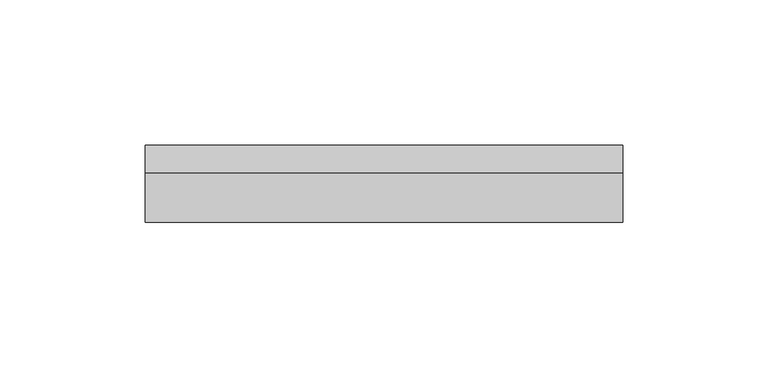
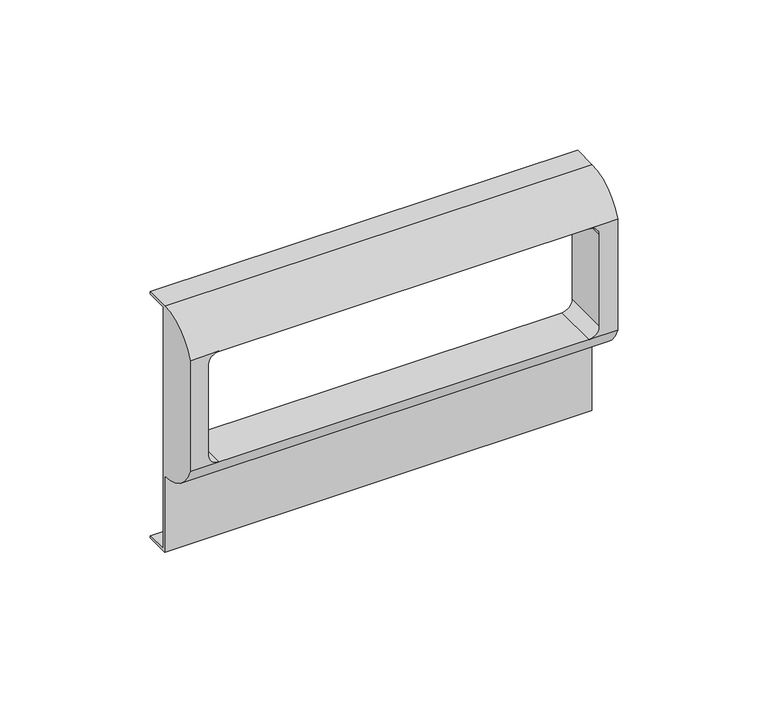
"""IFC4 building model written with IfcOpenShell, lengths in millimetres: proxy geometry, КНС_РамкаСуппорт_ILC_DKC : 45х45."""

from ifc_helpers import new_model, si_unit, frame, origin, place, context, project, spatial, polyline, circle_curve, source, transform, mapped, element, save
from ifc_brep_helpers import plane_surface, cylinder_surface, revolved_surface, advanced_brep


def electrical_fixtures_f8a1da3e(model_context):
    return source(origin(), model_context, "Body", "AdvancedBrep", [
        advanced_brep(
        [(82.0, 8.4, 49.0), (82.0, 8.4, 50.0), (82.0, -1.0, 50.0), (82.0, -18.0, 38.0), (82.0, -18.0, -7.0), (82.0, -1.0, -19.0), (82.0, -1.0, -50.0), (82.0, 8.4, -50.0), (82.0, 8.4, -49.0), (82.0, 0.0, -49.0), (82.0, 0.0, 49.0), (-82.0, 8.4, 49.0), (-82.0, 0.0, 49.0), (-82.0, 0.0, -49.0), (-82.0, 8.4, -49.0), (-82.0, 8.4, -50.0), (-82.0, -1.0, -50.0), (-82.0, -1.0, -19.0), (-82.0, -18.0, -7.0), (-82.0, -18.0, 38.0), (-82.0, -1.0, 50.0), (-82.0, 8.4, 50.0), (70.9686648, -18.0, 38.0), (75.0, -18.0, 33.9686648), (75.0, -18.0, -2.9686648), (70.9686648, -18.0, -7.0), (-70.9686648, -18.0, -7.0), (-75.0, -18.0, -2.9686648), (-75.0, -18.0, 33.9686648), (-70.9686648, -18.0, 38.0), (70.9686648, 0.0, 38.0), (-70.9686648, 0.0, 38.0), (-75.0, 0.0, 33.9686648), (-75.0, 0.0, -2.9686648), (-70.9686648, 0.0, -7.0), (70.9686648, 0.0, -7.0), (75.0, 0.0, -2.9686648), (75.0, 0.0, 33.9686648)],
        [
            (0, 1),
            (1, 2),
            (2, 3, circle_curve(frame((82.0, -1.0, 31.9583333), z_axis=(1.0, 0.0, 0.0), x_axis=(0.0, 1.0, 0.0)), 18.0416667)),
            (3, 4),
            (4, 5, circle_curve(frame((82.0, -1.0, -0.9583333), z_axis=(1.0, 0.0, 0.0), x_axis=(0.0, 1.0, 0.0)), 18.0416667)),
            (5, 6),
            (6, 7),
            (7, 8),
            (8, 9),
            (9, 10),
            (10, 0),
            (11, 12),
            (12, 13),
            (13, 14),
            (14, 15),
            (15, 16),
            (16, 17),
            (17, 18, circle_curve(frame((-82.0, -1.0, -0.9583333), z_axis=(-1.0, 0.0, 0.0), x_axis=(0.0, 1.0, 0.0)), 18.0416667)),
            (18, 19),
            (19, 20, circle_curve(frame((-82.0, -1.0, 31.9583333), z_axis=(-1.0, 0.0, 0.0), x_axis=(0.0, 1.0, 0.0)), 18.0416667)),
            (20, 21),
            (21, 11),
            (0, 11),
            (21, 1),
            (20, 2),
            (3, 22),
            (22, 23, circle_curve(frame((70.9686648, -18.0, 33.9686648), z_axis=(0.0, 1.0, 0.0), x_axis=(1.0, 0.0, 0.0)), 4.0313352)),
            (23, 24),
            (24, 25, circle_curve(frame((70.9686648, -18.0, -2.9686648), z_axis=(0.0, 1.0, 0.0), x_axis=(1.0, 0.0, 0.0)), 4.0313352)),
            (25, 4),
            (18, 26),
            (26, 27, circle_curve(frame((-70.9686648, -18.0, -2.9686648), z_axis=(0.0, 1.0, 0.0), x_axis=(1.0, 0.0, 0.0)), 4.0313352)),
            (27, 28),
            (28, 29, circle_curve(frame((-70.9686648, -18.0, 33.9686648), z_axis=(0.0, 1.0, 0.0), x_axis=(1.0, 0.0, 0.0)), 4.0313352)),
            (29, 19),
            (5, 17),
            (16, 6),
            (15, 7),
            (14, 8),
            (13, 9),
            (12, 10),
            (30, 31),
            (31, 32, circle_curve(frame((-70.9686648, 0.0, 33.9686648), z_axis=(0.0, -1.0, 0.0), x_axis=(1.0, 0.0, 0.0)), 4.0313352)),
            (32, 33),
            (33, 34, circle_curve(frame((-70.9686648, 0.0, -2.9686648), z_axis=(0.0, -1.0, 0.0), x_axis=(1.0, 0.0, 0.0)), 4.0313352)),
            (34, 35),
            (35, 36, circle_curve(frame((70.9686648, 0.0, -2.9686648), z_axis=(0.0, -1.0, 0.0), x_axis=(1.0, 0.0, 0.0)), 4.0313352)),
            (36, 37),
            (37, 30, circle_curve(frame((70.9686648, 0.0, 33.9686648), z_axis=(0.0, -1.0, 0.0), x_axis=(1.0, 0.0, 0.0)), 4.0313352)),
            (29, 22),
            (25, 26),
            (29, 31),
            (30, 22),
            (28, 32),
            (27, 33),
            (26, 34),
            (25, 35),
            (24, 36),
            (23, 37),
        ],
        [
            plane_surface(frame((82.0, 8.4, 50.0), z_axis=(1.0, 0.0, 0.0), x_axis=(0.0, 0.0, 1.0))),
            plane_surface(frame((-82.0, 8.4, 50.0), z_axis=(-1.0, 0.0, 0.0), x_axis=(0.0, 0.0, -1.0))),
            plane_surface(frame((82.0, 8.4, 49.0), z_axis=(0.0, 1.0, 0.0), x_axis=(-1.0, 0.0, 0.0))),
            plane_surface(frame((82.0, 8.4, 50.0), z_axis=(0.0, 0.0, 1.0), x_axis=(-1.0, 0.0, 0.0))),
            plane_surface(frame((82.0, -18.0, 38.0), z_axis=(0.0, -1.0, 0.0), x_axis=(-1.0, 0.0, 0.0))),
            plane_surface(frame((82.0, -1.0, -19.0), z_axis=(0.0, -1.0, 0.0), x_axis=(-1.0, 0.0, 0.0))),
            plane_surface(frame((82.0, -1.0, -50.0), z_axis=(0.0, 0.0, -1.0), x_axis=(-1.0, 0.0, 0.0))),
            plane_surface(frame((82.0, 8.4, -50.0), z_axis=(0.0, 1.0, 0.0), x_axis=(-1.0, 0.0, 0.0))),
            plane_surface(frame((82.0, 8.4, -49.0), z_axis=(0.0, 0.0, 1.0), x_axis=(-1.0, 0.0, 0.0))),
            plane_surface(frame((82.0, 0.0, -49.0), z_axis=(0.0, 1.0, 0.0), x_axis=(-1.0, 0.0, 0.0))),
            plane_surface(frame((82.0, 0.0, 49.0), z_axis=(0.0, 0.0, -1.0), x_axis=(-1.0, 0.0, 0.0))),
            cylinder_surface(frame((-82.0, -1.0, 31.9583333), z_axis=(1.0, 0.0, 0.0), x_axis=(0.0, 1.0, 0.0)), 18.0416667),
            cylinder_surface(frame((-82.0, -1.0, -0.9583333), z_axis=(1.0, 0.0, 0.0), x_axis=(0.0, 1.0, 0.0)), 18.0416667),
            plane_surface(frame((70.9686648, -18.0, 38.0), z_axis=(0.0, 0.0, -1.0), x_axis=(0.0, 1.0, 0.0))),
            revolved_surface(polyline([(-66.9373296, -18.0, 33.9686648), (-66.9373296, 0.0, 33.9686648)]), (-70.9686648, 0.0, 33.9686648), (0.0, -1.0, 0.0)),
            plane_surface(frame((-75.0, -18.0, 33.9686648), z_axis=(1.0, 0.0, 0.0), x_axis=(0.0, 1.0, 0.0))),
            revolved_surface(polyline([(-66.9373296, -18.0, -2.9686648), (-66.9373296, 0.0, -2.9686648)]), (-70.9686648, 0.0, -2.9686648), (0.0, -1.0, 0.0)),
            plane_surface(frame((-70.9686648, -18.0, -7.0), z_axis=(0.0, 0.0, 1.0), x_axis=(0.0, 1.0, 0.0))),
            revolved_surface(polyline([(75.0, -18.0, -2.9686648), (75.0, 0.0, -2.9686648)]), (70.9686648, 0.0, -2.9686648), (0.0, -1.0, 0.0)),
            plane_surface(frame((75.0, -18.0, -2.9686648), z_axis=(-1.0, 0.0, 0.0), x_axis=(0.0, 1.0, 0.0))),
            revolved_surface(polyline([(75.0, -18.0, 33.9686648), (75.0, 0.0, 33.9686648)]), (70.9686648, 0.0, 33.9686648), (0.0, -1.0, 0.0)),
        ],
        [
            (0, [[1, 2, 3, 4, 5, 6, 7, 8, 9, 10, 11]]),
            (1, [[12, 13, 14, 15, 16, 17, 18, 19, 20, 21, 22]]),
            (2, [[-1, 23, -22, 24]]),
            (3, [[-2, -24, -21, 25]]),
            (4, [[-4, 26, 27, 28, 29, 30]]),
            (4, [[-19, 31, 32, 33, 34, 35]]),
            (5, [[-6, 36, -17, 37]]),
            (6, [[-7, -37, -16, 38]]),
            (7, [[-8, -38, -15, 39]]),
            (8, [[-9, -39, -14, 40]]),
            (9, [[-10, -40, -13, 41], [42, 43, 44, 45, 46, 47, 48, 49]]),
            (10, [[-11, -41, -12, -23]]),
            (11, [[-3, -25, -20, -35, 50, -26]]),
            (12, [[-5, -30, 51, -31, -18, -36]]),
            (13, [[52, -42, 53, -50]]),
            (14, [[-52, -34, 54, -43]]),
            (15, [[-54, -33, 55, -44]]),
            (16, [[-55, -32, 56, -45]]),
            (17, [[-56, -51, 57, -46]]),
            (18, [[-57, -29, 58, -47]]),
            (19, [[-58, -28, 59, -48]]),
            (20, [[-53, -49, -59, -27]]),
        ],
    ),
    ])


if __name__ == "__main__":
    model = new_model("IFC4")
    model_context = context("Model", 3, world=origin())
    ifc_project = project(units=[si_unit("LENGTHUNIT", "METRE", prefix="MILLI")], contexts=[model_context])
    site = spatial("IfcSite", under=ifc_project)
    building = spatial("IfcBuilding", under=site)
    placement = place(None, origin())
    electrical_fixtures_shape = electrical_fixtures_f8a1da3e(model_context)
    element("IfcBuildingElementProxy", 1, Name="КНС_РамкаСуппорт_ILC_DKC : 45х45", ObjectType="КНС_РамкаСуппорт_ILC_DKC : 45х45", at=placement, inside=building, context=model_context, shape_type="MappedRepresentation", body=[
        mapped(electrical_fixtures_shape, transform((0.0, 0.0, 0.0), x_axis=(1.0, 0.0, 0.0), y_axis=(0.0, 1.0, 0.0), z_axis=(0.0, 0.0, 1.0))),
    ])
    save(model, "model.ifc")
